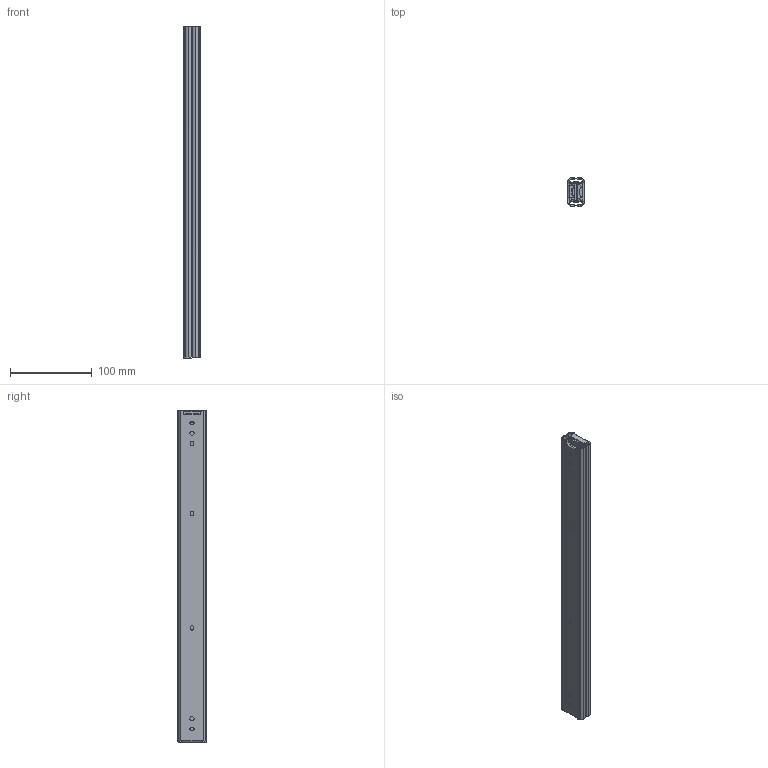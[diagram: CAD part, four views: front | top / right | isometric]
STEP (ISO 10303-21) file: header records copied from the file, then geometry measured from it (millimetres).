
FILE_DESCRIPTION (( 'STEP AP214' ), '1' );
FILE_NAME ('3560-400-closed.STEP', '2024-08-20T06:00:30', ( '' ), ( '' ), 'SwSTEP 2.0', 'SolidWorks 2024', '' );
FILE_SCHEMA (( 'AUTOMOTIVE_DESIGN' ));
Length unit declared in the file: millimetre
Products named in the file (4): 26065P3-16''''.stp_Part10; 3560-400-closed; 26065P1-16''''.stp_Part9; CAD_3560-400_TelescopicRailLight_Rollco.stp_Assem5
Assembly tree (5 placements, depth 3):
  3560-400-closed
    CAD_3560-400_TelescopicRailLight_Rollco.stp_Assem5
      26065P1-16''''.stp_Part9  x2
      26065P3-16''''.stp_Part10  x2
Bounding box: 19.6 x 35.28 x 406.4 mm (x, y, z)
Surface area: 133457.9 mm2 (no closed solid volume)
Topology: 0 solids, 4 shells, 298 faces, 858 edges, 568 vertices
Faces by surface type: cylinder 158, plane 140
Entity records: 6297 total; most frequent: CARTESIAN_POINT 3073, ORIENTED_EDGE 858, EDGE_CURVE 429, B_SPLINE_CURVE_WITH_KNOTS 416, DIRECTION 329, VERTEX_POINT 284, EDGE_LOOP 171, AXIS2_PLACEMENT_3D 158
